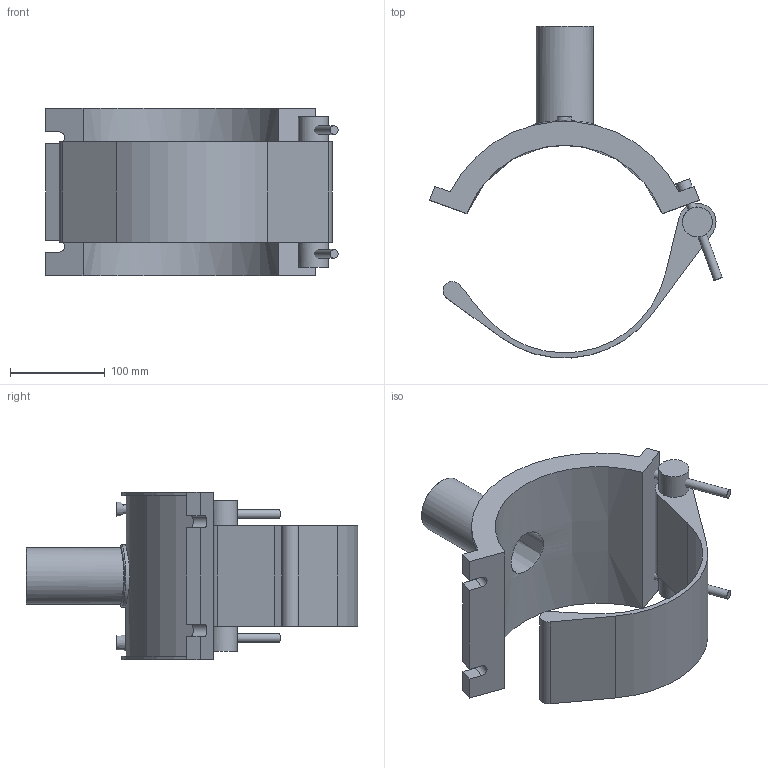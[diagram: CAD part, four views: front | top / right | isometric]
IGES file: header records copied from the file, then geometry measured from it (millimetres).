
Global section: file name: 5958BB03080020.ipt; native system: Autodesk Inventor 2019; preprocessor: unknown; author: KIM; date: 20210830.101301; units: inch
Bounding box: 307.98 x 349.68 x 176.02 mm (x, y, z)
Volume: 1808269.8 mm3; surface area: 288462.4 mm2
Topology: 5 solids, 5 shells, 65 faces, 135 edges, 91 vertices
Faces by surface type: plane 37, cylinder 17, revolution 7, cone 3, bspline 1
Full cylindrical faces by diameter (mm): 4 x2, 9.185 x2, 15.309 x2, 31.493 x2, 60.1 x1, 66.11 x1
